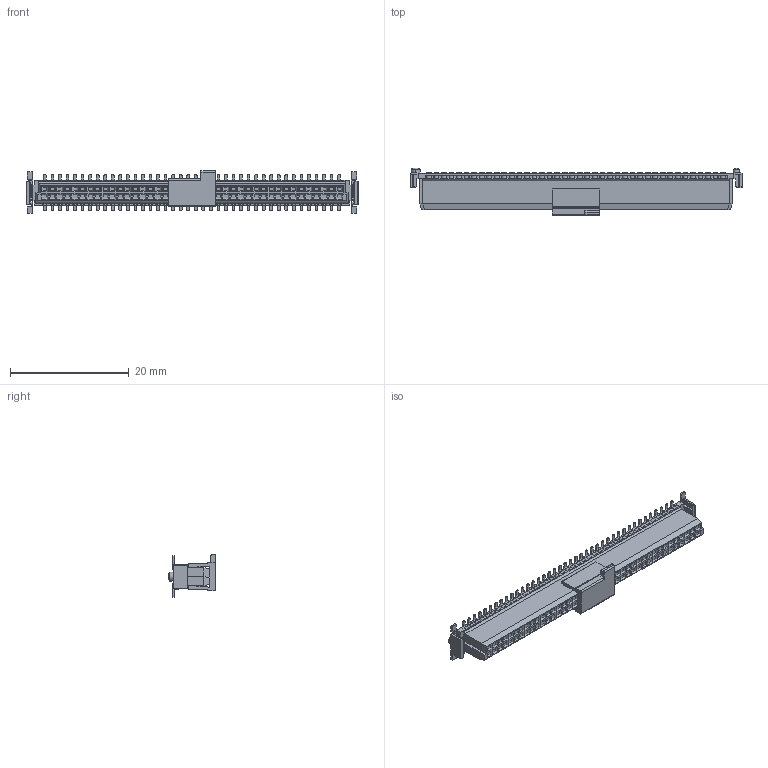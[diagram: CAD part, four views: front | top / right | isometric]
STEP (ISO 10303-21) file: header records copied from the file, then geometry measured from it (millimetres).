
FILE_DESCRIPTION (( 'STEP AP214' ), '1' );
FILE_NAME ('2321-A80FCxxDP1T-P.STEP', '2025-06-23T06:36:54', ( '' ), ( '' ), 'SwSTEP 2.0', 'SolidWorks 2011', '' );
FILE_SCHEMA (( 'AUTOMOTIVE_DESIGN' ));
Length unit declared in the file: millimetre
Products named in the file (3): 2321-A80FCxxDP1T_Default; 2321-FPAD2_Default; 2321-A80FCxxDP1T-P
Assembly tree (2 placements, depth 2):
  2321-A80FCxxDP1T-P
    2321-FPAD2_Default
    2321-A80FCxxDP1T_Default
Bounding box: 55.88 x 8 x 7.22 mm (x, y, z)
Volume: 1066.1 mm3; surface area: 1691.3 mm2
Topology: 2 solids, 2 shells, 2897 faces, 8215 edges, 5325 vertices
Faces by surface type: plane 2032, cylinder 860, cone 5
Entity records: 125219 total; most frequent: CARTESIAN_POINT 16442, ORIENTED_EDGE 16430, DIRECTION 16032, EDGE_CURVE 8215, LINE 6202, VECTOR 6202, VERTEX_POINT 5325, AXIS2_PLACEMENT_3D 4915
